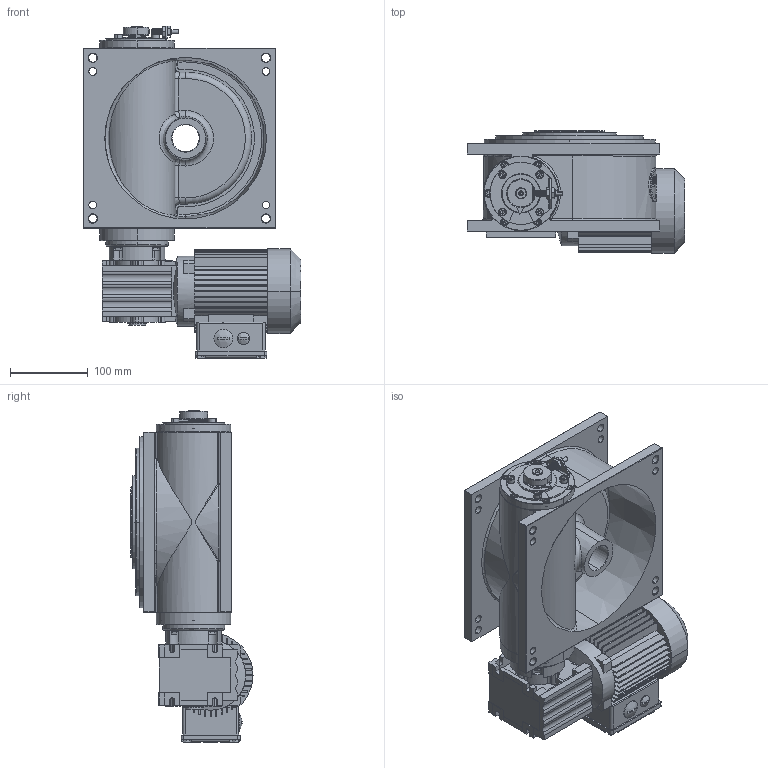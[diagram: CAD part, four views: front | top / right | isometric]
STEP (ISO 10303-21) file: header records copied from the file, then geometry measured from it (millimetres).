
FILE_DESCRIPTION (( 'STEP AP214' ), '1' );
FILE_NAME ('M190_SEW_WAF10DT56L4_E1.STEP', '2021-01-25T15:31:04', ( '' ), ( '' ), 'SwSTEP 2.0', 'SolidWorks 2020', '' );
FILE_SCHEMA (( 'AUTOMOTIVE_DESIGN' ));
Length unit declared in the file: millimetre
Products named in the file (1): M190_SEW_WAF10DT56L4_E1
Bounding box: 280.5 x 157.1 x 427.44 mm (x, y, z)
Surface area: 569876.4 mm2 (no closed solid volume)
Topology: 0 solids, 52 shells, 1501 faces, 4734 edges, 3112 vertices
Faces by surface type: plane 684, cylinder 503, cone 153, bspline 84, torus 65, sphere 12
Entity records: 77123 total; most frequent: CARTESIAN_POINT 19299, DIRECTION 8733, ORIENTED_EDGE 8075, EDGE_CURVE 4701, VERTEX_POINT 3112, AXIS2_PLACEMENT_3D 3033, VECTOR 2667, LINE 2667
